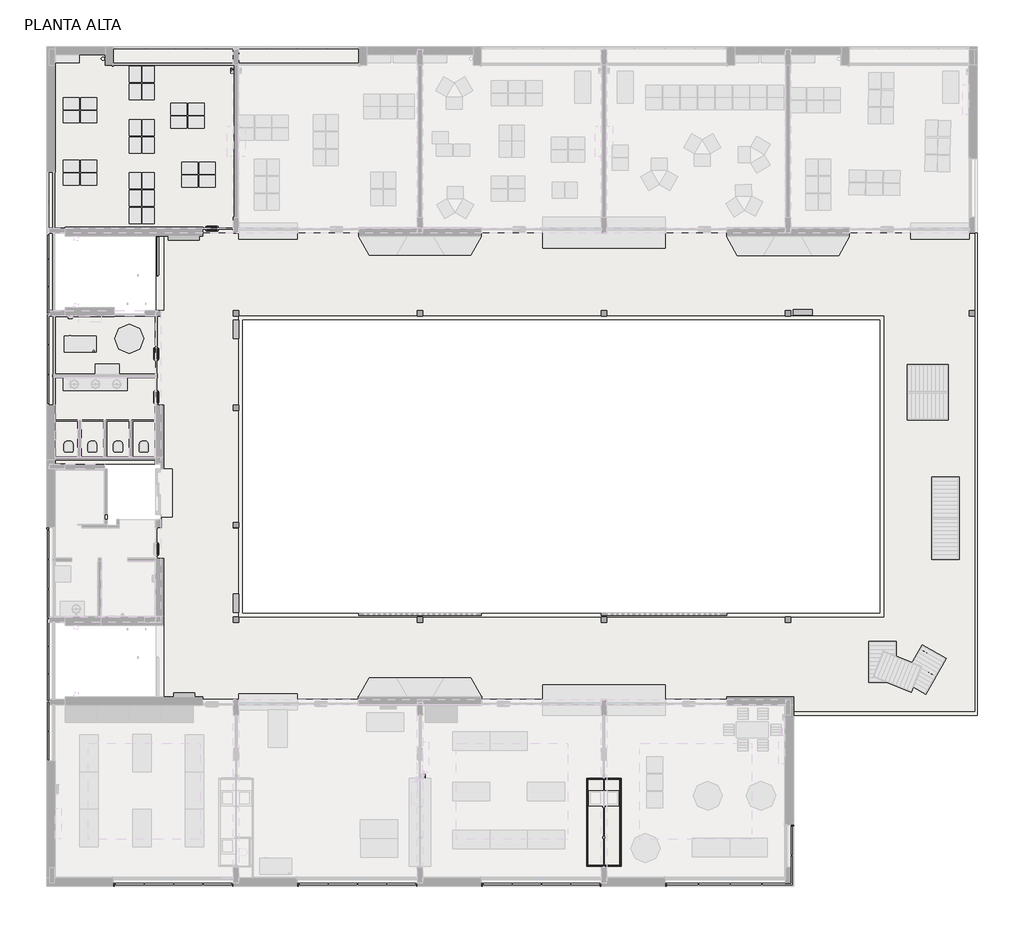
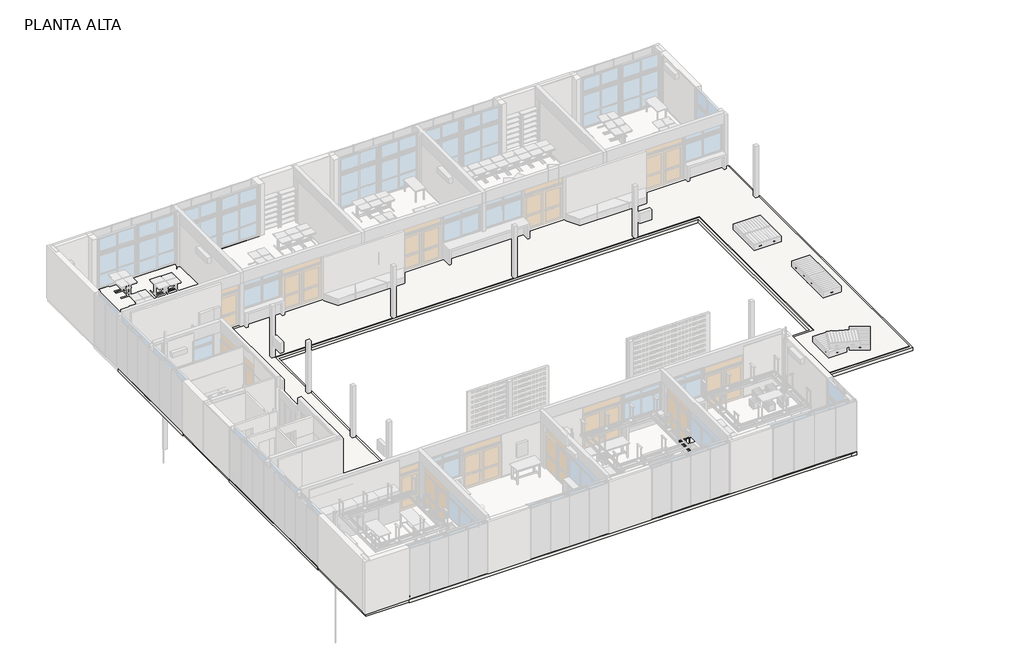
# One storey, part 7 of 14: 13 slabs, 1 proxy.
"""IFC4 building model written with IfcOpenShell, lengths in millimetres."""

from ifc_helpers import new_model, si_unit, point, frame, frame_2d, origin, place, context, project, spatial, polyline, circle_curve, ellipse_curve, trimmed, segment, composite_curve, outline, extrude, faceted_brep, element, save
from ifc_brep_helpers import plane_surface, cylinder_surface, revolved_surface, advanced_brep

model = new_model("IFC4")

# Units and contexts
model_context = context("Model", 3, world=origin())
ifc_project = project(units=[si_unit("LENGTHUNIT", "METRE", prefix="MILLI")], contexts=[model_context])

# Site, building, storey
site = spatial("IfcSite", under=ifc_project)
building = spatial("IfcBuilding", under=site)
storey = spatial("IfcBuildingStorey", under=building, Name="PLANTA ALTA", Elevation=3310.0)

# Proxy
placement = place(None, origin())
element("IfcBuildingElementProxy", 1, Name="Borde mesada", ObjectType="Borde mesada", at=placement, inside=storey, context=model_context, shape_type="AdvancedBrep", body=[
    advanced_brep(
    [(24639.1173694, 4270.2304035, 4213.0), (24639.1173694, 4270.2304035, 4128.0), (23338.3173694, 4270.2304035, 4128.0), (23338.3173694, 4270.2304035, 4213.0), (24637.1173694, 4268.2304035, 4215.0), (23340.3173694, 4268.2304035, 4215.0), (24591.1173694, 4222.2304035, 4215.0), (23386.3173694, 4222.2304035, 4215.0), (24589.1173694, 4220.2304035, 4213.0), (23388.3173694, 4220.2304035, 4213.0), (24589.1173694, 4220.2304035, 4192.0), (23388.3173694, 4220.2304035, 4192.0), (24569.1173694, 4200.2304035, 4192.0), (23408.3173694, 4200.2304035, 4192.0), (24569.1173694, 4200.2304035, 4190.0), (23408.3173694, 4200.2304035, 4190.0), (24591.1173694, 4222.2304035, 4190.0), (23386.3173694, 4222.2304035, 4190.0), (24591.1173694, 4222.2304035, 4213.0), (23386.3173694, 4222.2304035, 4213.0), (24637.1173694, 4268.2304035, 4213.0), (23340.3173694, 4268.2304035, 4213.0), (24637.1173694, 4268.2304035, 4130.0), (23340.3173694, 4268.2304035, 4130.0), (23351.6173694, 4256.9304035, 4130.0), (23388.3173694, 4220.2304035, 4130.0), (24589.1173694, 4220.2304035, 4130.0), (24625.8173694, 4256.9304035, 4130.0), (24589.1173694, 4220.2304035, 4128.0), (23388.3173694, 4220.2304035, 4128.0), (23338.3173694, 956.9304035, 4128.0), (23338.3173694, 956.9304035, 4213.0), (23340.3173694, 958.9304035, 4215.0), (23386.3173694, 1004.9304035, 4215.0), (23388.3173694, 1006.9304035, 4213.0), (23388.3173694, 1006.9304035, 4192.0), (23408.3173694, 1026.9304035, 4192.0), (23408.3173694, 1026.9304035, 4190.0), (23386.3173694, 1004.9304035, 4190.0), (23386.3173694, 1004.9304035, 4213.0), (23340.3173694, 958.9304035, 4213.0), (23340.3173694, 958.9304035, 4130.0), (23351.6173694, 970.2304035, 4130.0), (23388.3173694, 1006.9304035, 4130.0), (23388.3173694, 1006.9304035, 4128.0), (24639.1173694, 956.9304035, 4128.0), (24639.1173694, 956.9304035, 4213.0), (24637.1173694, 958.9304035, 4215.0), (24591.1173694, 1004.9304035, 4215.0), (24589.1173694, 1006.9304035, 4213.0), (24589.1173694, 1006.9304035, 4192.0), (24569.1173694, 1026.9304035, 4192.0), (24569.1173694, 1026.9304035, 4190.0), (24591.1173694, 1004.9304035, 4190.0), (24591.1173694, 1004.9304035, 4213.0), (24637.1173694, 958.9304035, 4213.0), (24637.1173694, 958.9304035, 4130.0), (24625.8173694, 970.2304035, 4130.0), (24589.1173694, 1006.9304035, 4130.0), (24589.1173694, 1006.9304035, 4128.0)],
    [
        (0, 1),
        (1, 2),
        (2, 3),
        (3, 0),
        (4, 0, ellipse_curve(frame((24637.1173694, 4268.2304035, 4213.0), z_axis=(-0.7071067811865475, 0.7071067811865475, 0.0), x_axis=(0.7071067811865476, 0.7071067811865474, 0.0)), 2.8284271, 2.0)),
        (3, 5, ellipse_curve(frame((23340.3173694, 4268.2304035, 4213.0), z_axis=(0.7071067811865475, 0.7071067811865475, 0.0), x_axis=(0.7071067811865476, -0.7071067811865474, 0.0)), 2.8284271, 2.0)),
        (5, 4),
        (6, 4),
        (5, 7),
        (7, 6),
        (8, 6, ellipse_curve(frame((24591.1173694, 4222.2304035, 4213.0), z_axis=(-0.7071067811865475, 0.7071067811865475, 0.0), x_axis=(0.7071067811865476, 0.7071067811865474, 0.0)), 2.8284271, 2.0)),
        (7, 9, ellipse_curve(frame((23386.3173694, 4222.2304035, 4213.0), z_axis=(0.7071067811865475, 0.7071067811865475, 0.0), x_axis=(0.7071067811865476, -0.7071067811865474, 0.0)), 2.8284271, 2.0)),
        (9, 8),
        (10, 8),
        (9, 11),
        (11, 10),
        (12, 10),
        (11, 13),
        (13, 12),
        (14, 12),
        (13, 15),
        (15, 14),
        (16, 14),
        (15, 17),
        (17, 16),
        (18, 16),
        (17, 19),
        (19, 18),
        (20, 18),
        (19, 21),
        (21, 20),
        (22, 20),
        (21, 23),
        (23, 22),
        (23, 24),
        (24, 25),
        (25, 26),
        (26, 27),
        (27, 22),
        (28, 26),
        (25, 29),
        (29, 28),
        (1, 28),
        (29, 2),
        (2, 30),
        (30, 31),
        (31, 3),
        (31, 32, ellipse_curve(frame((23340.3173694, 958.9304035, 4213.0), z_axis=(-0.7071067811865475, 0.7071067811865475, 0.0), x_axis=(0.7071067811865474, 0.7071067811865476, 0.0)), 2.8284271, 2.0)),
        (32, 5),
        (32, 33),
        (33, 7),
        (33, 34, ellipse_curve(frame((23386.3173694, 1004.9304035, 4213.0), z_axis=(-0.7071067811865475, 0.7071067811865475, 0.0), x_axis=(0.7071067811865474, 0.7071067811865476, 0.0)), 2.8284271, 2.0)),
        (34, 9),
        (34, 35),
        (35, 11),
        (35, 36),
        (36, 13),
        (36, 37),
        (37, 15),
        (37, 38),
        (38, 17),
        (38, 39),
        (39, 19),
        (39, 40),
        (40, 21),
        (40, 41),
        (41, 23),
        (41, 42),
        (42, 43),
        (43, 25),
        (43, 44),
        (44, 29),
        (44, 30),
        (30, 45),
        (45, 46),
        (46, 31),
        (46, 47, ellipse_curve(frame((24637.1173694, 958.9304035, 4213.0), z_axis=(-0.7071067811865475, -0.7071067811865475, 0.0), x_axis=(-0.7071067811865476, 0.7071067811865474, 0.0)), 2.8284271, 2.0)),
        (47, 32),
        (47, 48),
        (48, 33),
        (48, 49, ellipse_curve(frame((24591.1173694, 1004.9304035, 4213.0), z_axis=(-0.7071067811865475, -0.7071067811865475, 0.0), x_axis=(-0.7071067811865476, 0.7071067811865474, 0.0)), 2.8284271, 2.0)),
        (49, 34),
        (49, 50),
        (50, 35),
        (50, 51),
        (51, 36),
        (51, 52),
        (52, 37),
        (52, 53),
        (53, 38),
        (53, 54),
        (54, 39),
        (54, 55),
        (55, 40),
        (55, 56),
        (56, 41),
        (56, 57),
        (57, 58),
        (58, 43),
        (58, 59),
        (59, 44),
        (59, 45),
        (0, 46),
        (45, 1),
        (4, 47),
        (6, 48),
        (8, 49),
        (10, 50),
        (12, 51),
        (14, 52),
        (16, 53),
        (18, 54),
        (20, 55),
        (22, 56),
        (26, 58),
        (28, 59),
    ],
    [
        plane_surface(frame((24639.1173694, 4270.2304035, 4128.0), z_axis=(0.0, 1.0, 0.0), x_axis=(-1.0, 0.0, 0.0))),
        cylinder_surface(frame((24625.8173694, 4268.2304035, 4213.0), z_axis=(1.0, 0.0, 0.0), x_axis=(0.0, -1.0, 0.0)), 2.0),
        plane_surface(frame((24637.1173694, 4268.2304035, 4215.0), z_axis=(0.0, 0.0, 1.0), x_axis=(-1.0, 0.0, 0.0))),
        cylinder_surface(frame((24625.8173694, 4222.2304035, 4213.0), z_axis=(1.0, 0.0, 0.0), x_axis=(0.0, -1.0, 0.0)), 2.0),
        plane_surface(frame((24589.1173694, 4220.2304035, 4213.0), z_axis=(0.0, -1.0, 0.0), x_axis=(-1.0, 0.0, 0.0))),
        plane_surface(frame((24589.1173694, 4220.2304035, 4192.0), z_axis=(0.0, 0.0, 1.0), x_axis=(-1.0, 0.0, 0.0))),
        plane_surface(frame((24569.1173694, 4200.2304035, 4192.0), z_axis=(0.0, -1.0, 0.0), x_axis=(-1.0, 0.0, 0.0))),
        plane_surface(frame((24569.1173694, 4200.2304035, 4190.0), z_axis=(0.0, 0.0, -1.0), x_axis=(-1.0, 0.0, 0.0))),
        plane_surface(frame((24591.1173694, 4222.2304035, 4190.0), z_axis=(0.0, 1.0, 0.0), x_axis=(-1.0, 0.0, 0.0))),
        plane_surface(frame((24591.1173694, 4222.2304035, 4213.0), z_axis=(0.0, 0.0, -1.0), x_axis=(-1.0, 0.0, 0.0))),
        plane_surface(frame((24637.1173694, 4268.2304035, 4213.0), z_axis=(0.0, -1.0, 0.0), x_axis=(-1.0, 0.0, 0.0))),
        plane_surface(frame((24637.1173694, 4268.2304035, 4130.0), z_axis=(0.0, 0.0, 1.0), x_axis=(-1.0, 0.0, 0.0))),
        plane_surface(frame((24589.1173694, 4220.2304035, 4130.0), z_axis=(0.0, -1.0, 0.0), x_axis=(-1.0, 0.0, 0.0))),
        plane_surface(frame((24589.1173694, 4220.2304035, 4128.0), z_axis=(0.0, 0.0, -1.0), x_axis=(-1.0, 0.0, 0.0))),
        plane_surface(frame((23338.3173694, 4270.2304035, 4128.0), z_axis=(-1.0, 0.0, 0.0), x_axis=(0.0, -1.0, 0.0))),
        cylinder_surface(frame((23340.3173694, 4256.9304035, 4213.0), z_axis=(0.0, 1.0, 0.0), x_axis=(1.0, 0.0, 0.0)), 2.0),
        plane_surface(frame((23340.3173694, 4268.2304035, 4215.0), z_axis=(0.0, 0.0, 1.0), x_axis=(0.0, -1.0, 0.0))),
        cylinder_surface(frame((23386.3173694, 4256.9304035, 4213.0), z_axis=(0.0, 1.0, 0.0), x_axis=(1.0, 0.0, 0.0)), 2.0),
        plane_surface(frame((23388.3173694, 4220.2304035, 4213.0), z_axis=(1.0, 0.0, 0.0), x_axis=(0.0, -1.0, 0.0))),
        plane_surface(frame((23388.3173694, 4220.2304035, 4192.0), z_axis=(0.0, 0.0, 1.0), x_axis=(0.0, -1.0, 0.0))),
        plane_surface(frame((23408.3173694, 4200.2304035, 4192.0), z_axis=(1.0, 0.0, 0.0), x_axis=(0.0, -1.0, 0.0))),
        plane_surface(frame((23408.3173694, 4200.2304035, 4190.0), z_axis=(0.0, 0.0, -1.0), x_axis=(0.0, -1.0, 0.0))),
        plane_surface(frame((23386.3173694, 4222.2304035, 4190.0), z_axis=(-1.0, 0.0, 0.0), x_axis=(0.0, -1.0, 0.0))),
        plane_surface(frame((23386.3173694, 4222.2304035, 4213.0), z_axis=(0.0, 0.0, -1.0), x_axis=(0.0, -1.0, 0.0))),
        plane_surface(frame((23340.3173694, 4268.2304035, 4213.0), z_axis=(1.0, 0.0, 0.0), x_axis=(0.0, -1.0, 0.0))),
        plane_surface(frame((23340.3173694, 4268.2304035, 4130.0), z_axis=(0.0, 0.0, 1.0), x_axis=(0.0, -1.0, 0.0))),
        plane_surface(frame((23388.3173694, 4220.2304035, 4130.0), z_axis=(1.0, 0.0, 0.0), x_axis=(0.0, -1.0, 0.0))),
        plane_surface(frame((23388.3173694, 4220.2304035, 4128.0), z_axis=(0.0, 0.0, -1.0), x_axis=(0.0, -1.0, 0.0))),
        plane_surface(frame((23338.3173694, 956.9304035, 4128.0), z_axis=(0.0, -1.0, 0.0), x_axis=(1.0, 0.0, 0.0))),
        cylinder_surface(frame((23351.6173694, 958.9304035, 4213.0), z_axis=(-1.0, 0.0, 0.0), x_axis=(0.0, 1.0, 0.0)), 2.0),
        plane_surface(frame((23340.3173694, 958.9304035, 4215.0), z_axis=(0.0, 0.0, 1.0), x_axis=(1.0, 0.0, 0.0))),
        cylinder_surface(frame((23351.6173694, 1004.9304035, 4213.0), z_axis=(-1.0, 0.0, 0.0), x_axis=(0.0, 1.0, 0.0)), 2.0),
        plane_surface(frame((23388.3173694, 1006.9304035, 4213.0), z_axis=(0.0, 1.0, 0.0), x_axis=(1.0, 0.0, 0.0))),
        plane_surface(frame((23388.3173694, 1006.9304035, 4192.0), z_axis=(0.0, 0.0, 1.0), x_axis=(1.0, 0.0, 0.0))),
        plane_surface(frame((23408.3173694, 1026.9304035, 4192.0), z_axis=(0.0, 1.0, 0.0), x_axis=(1.0, 0.0, 0.0))),
        plane_surface(frame((23408.3173694, 1026.9304035, 4190.0), z_axis=(0.0, 0.0, -1.0), x_axis=(1.0, 0.0, 0.0))),
        plane_surface(frame((23386.3173694, 1004.9304035, 4190.0), z_axis=(0.0, -1.0, 0.0), x_axis=(1.0, 0.0, 0.0))),
        plane_surface(frame((23386.3173694, 1004.9304035, 4213.0), z_axis=(0.0, 0.0, -1.0), x_axis=(1.0, 0.0, 0.0))),
        plane_surface(frame((23340.3173694, 958.9304035, 4213.0), z_axis=(0.0, 1.0, 0.0), x_axis=(1.0, 0.0, 0.0))),
        plane_surface(frame((23340.3173694, 958.9304035, 4130.0), z_axis=(0.0, 0.0, 1.0), x_axis=(1.0, 0.0, 0.0))),
        plane_surface(frame((23388.3173694, 1006.9304035, 4130.0), z_axis=(0.0, 1.0, 0.0), x_axis=(1.0, 0.0, 0.0))),
        plane_surface(frame((23388.3173694, 1006.9304035, 4128.0), z_axis=(0.0, 0.0, -1.0), x_axis=(1.0, 0.0, 0.0))),
        plane_surface(frame((24639.1173694, 956.9304035, 4128.0), z_axis=(1.0, 0.0, 0.0), x_axis=(0.0, 1.0, 0.0))),
        cylinder_surface(frame((24637.1173694, 970.2304035, 4213.0), z_axis=(0.0, -1.0, 0.0), x_axis=(-1.0, 0.0, 0.0)), 2.0),
        plane_surface(frame((24637.1173694, 958.9304035, 4215.0), z_axis=(0.0, 0.0, 1.0), x_axis=(0.0, 1.0, 0.0))),
        cylinder_surface(frame((24591.1173694, 970.2304035, 4213.0), z_axis=(0.0, -1.0, 0.0), x_axis=(-1.0, 0.0, 0.0)), 2.0),
        plane_surface(frame((24589.1173694, 1006.9304035, 4213.0), z_axis=(-1.0, 0.0, 0.0), x_axis=(0.0, 1.0, 0.0))),
        plane_surface(frame((24589.1173694, 1006.9304035, 4192.0), z_axis=(0.0, 0.0, 1.0), x_axis=(0.0, 1.0, 0.0))),
        plane_surface(frame((24569.1173694, 1026.9304035, 4192.0), z_axis=(-1.0, 0.0, 0.0), x_axis=(0.0, 1.0, 0.0))),
        plane_surface(frame((24569.1173694, 1026.9304035, 4190.0), z_axis=(0.0, 0.0, -1.0), x_axis=(0.0, 1.0, 0.0))),
        plane_surface(frame((24591.1173694, 1004.9304035, 4190.0), z_axis=(1.0, 0.0, 0.0), x_axis=(0.0, 1.0, 0.0))),
        plane_surface(frame((24591.1173694, 1004.9304035, 4213.0), z_axis=(0.0, 0.0, -1.0), x_axis=(0.0, 1.0, 0.0))),
        plane_surface(frame((24637.1173694, 958.9304035, 4213.0), z_axis=(-1.0, 0.0, 0.0), x_axis=(0.0, 1.0, 0.0))),
        plane_surface(frame((24637.1173694, 958.9304035, 4130.0), z_axis=(0.0, 0.0, 1.0), x_axis=(0.0, 1.0, 0.0))),
        plane_surface(frame((24589.1173694, 1006.9304035, 4130.0), z_axis=(-1.0, 0.0, 0.0), x_axis=(0.0, 1.0, 0.0))),
        plane_surface(frame((24589.1173694, 1006.9304035, 4128.0), z_axis=(0.0, 0.0, -1.0), x_axis=(0.0, 1.0, 0.0))),
    ],
    [
        (0, [[1, 2, 3, 4]]),
        (1, [[5, -4, 6, 7]]),
        (2, [[8, -7, 9, 10]]),
        (3, [[11, -10, 12, 13]]),
        (4, [[14, -13, 15, 16]]),
        (5, [[17, -16, 18, 19]]),
        (6, [[20, -19, 21, 22]]),
        (7, [[23, -22, 24, 25]]),
        (8, [[26, -25, 27, 28]]),
        (9, [[29, -28, 30, 31]]),
        (10, [[32, -31, 33, 34]]),
        (11, [[-34, 35, 36, 37, 38, 39]]),
        (12, [[40, -37, 41, 42]]),
        (13, [[43, -42, 44, -2]]),
        (14, [[-3, 45, 46, 47]]),
        (15, [[-6, -47, 48, 49]]),
        (16, [[-9, -49, 50, 51]]),
        (17, [[-12, -51, 52, 53]]),
        (18, [[-15, -53, 54, 55]]),
        (19, [[-18, -55, 56, 57]]),
        (20, [[-21, -57, 58, 59]]),
        (21, [[-24, -59, 60, 61]]),
        (22, [[-27, -61, 62, 63]]),
        (23, [[-30, -63, 64, 65]]),
        (24, [[-33, -65, 66, 67]]),
        (25, [[-67, 68, 69, 70, -36, -35]]),
        (26, [[-41, -70, 71, 72]]),
        (27, [[-44, -72, 73, -45]]),
        (28, [[-46, 74, 75, 76]]),
        (29, [[-48, -76, 77, 78]]),
        (30, [[-50, -78, 79, 80]]),
        (31, [[-52, -80, 81, 82]]),
        (32, [[-54, -82, 83, 84]]),
        (33, [[-56, -84, 85, 86]]),
        (34, [[-58, -86, 87, 88]]),
        (35, [[-60, -88, 89, 90]]),
        (36, [[-62, -90, 91, 92]]),
        (37, [[-64, -92, 93, 94]]),
        (38, [[-66, -94, 95, 96]]),
        (39, [[-96, 97, 98, 99, -69, -68]]),
        (40, [[-71, -99, 100, 101]]),
        (41, [[-73, -101, 102, -74]]),
        (42, [[-1, 103, -75, 104]]),
        (43, [[-5, 105, -77, -103]]),
        (44, [[-8, 106, -79, -105]]),
        (45, [[-11, 107, -81, -106]]),
        (46, [[-14, 108, -83, -107]]),
        (47, [[-17, 109, -85, -108]]),
        (48, [[-20, 110, -87, -109]]),
        (49, [[-23, 111, -89, -110]]),
        (50, [[-26, 112, -91, -111]]),
        (51, [[-29, 113, -93, -112]]),
        (52, [[-32, 114, -95, -113]]),
        (53, [[-114, -39, -38, 115, -98, -97]]),
        (54, [[-40, 116, -100, -115]]),
        (55, [[-43, -104, -102, -116]]),
    ],
),
])

# Slabs
element("IfcSlab", 2, ObjectType="C23 MONOLITICA GRANITICA 30x30 5cm", at=placement, inside=storey, context=model_context, shape_type="SweptSolid", body=[
    extrude(outline(polyline([(8938.7173694, 7330.2304035), (7478.7173693, 7330.2304035), (7478.7173693, 10035.2304035), (7478.7173693, 12520.2304035), (7168.7173694, 12520.2304035), (7168.7173694, 13670.2304035), (7368.7173694, 13670.2304035), (7368.7173694, 14070.2304035), (7788.7173694, 14070.2304035), (7788.7173694, 15870.2304035), (7488.7173693, 15870.2304035), (7488.7173693, 18270.2304035), (7168.7173693, 18270.2304035), (7168.7173693, 21620.2304035), (7368.7173693, 21620.2304035), (7368.7173693, 21820.2304035), (7488.7173693, 21820.2304035), (7488.7173693, 24610.2304035), (8938.7173694, 24610.2304035), (8938.7173694, 24720.2304035), (14788.7173694, 24720.2304035), (14788.7173694, 24610.2304035), (19388.7173694, 24610.2304035), (19388.7173694, 24720.2304035), (28588.7173694, 24720.2304035), (28588.7173694, 24610.2304035), (33188.7173693, 24610.2304035), (33188.7173693, 24720.2304035), (37888.7173693, 24720.2304035), (37888.7173693, 21820.2304035), (37688.7173693, 21820.2304035), (37688.7173693, 21620.2304035), (37888.7173693, 21620.2304035), (37888.7173693, 6770.2304035), (31098.7173693, 6770.2304035), (31098.7173693, 7330.2304035), (28588.7173694, 7330.2304035), (28588.7173694, 7220.2304035), (19388.7173694, 7220.2304035), (19388.7173694, 7330.2304035), (14788.7173694, 7330.2304035), (14788.7173694, 7220.2304035), (8938.7173694, 7220.2304035), (8938.7173694, 7330.2304035)]), holes=[polyline([(10288.7173693, 18269.6020291), (10088.7173693, 18269.6020291), (10088.7173693, 18070.2304035), (10288.7173693, 18070.2304035), (10288.7173693, 13870.2304035), (10088.7173693, 13870.2304035), (10088.7173693, 13670.2304035), (10288.7173693, 13670.2304035), (10288.7173693, 10320.2304035), (16988.7173694, 10320.2304035), (16988.7173694, 10120.2304035), (17188.7173694, 10120.2304035), (17188.7173694, 10320.2304035), (23888.7173694, 10320.2304035), (23888.7173694, 10120.2304035), (24088.7173694, 10120.2304035), (24088.7173694, 10320.2304035), (30788.7173693, 10320.2304035), (30788.7173693, 10120.2304035), (30988.7173693, 10120.2304035), (30988.7173693, 10320.2304035), (34488.7173694, 10320.2304035), (34488.7173694, 21620.2304035), (30988.7173693, 21620.2304035), (30988.7173693, 21820.2304035), (30788.7173693, 21820.2304035), (30788.7173693, 21620.2304035), (24088.7173694, 21620.2304035), (24088.7173694, 21820.2304035), (23888.7173694, 21820.2304035), (23888.7173694, 21620.2304035), (17188.7173694, 21620.2304035), (17188.7173694, 21820.2304035), (16988.7173694, 21820.2304035), (16988.7173694, 21620.2304035), (10288.7173693, 21620.2304035), (10288.7173693, 18269.6020291)])]), frame((0.0, 0.0, 3260.0), z_axis=(0.0, 0.0, 1.0), x_axis=(1.0, 0.0, 0.0)), (0.0, 0.0, 1.0), 50.0),
])
element("IfcSlab", 3, ObjectType="PODOTÁCTIL 30x30 4 cm", at=placement, inside=storey, context=model_context, shape_type="SweptSolid", body=[
    extrude(outline(polyline([(7488.7173693, 24610.2304035), (7488.7173693, 21820.2304035), (7188.7173693, 21820.2304035), (7188.7173693, 24610.2304035), (7488.7173693, 24610.2304035)])), frame((0.0, 0.0, 3260.0), z_axis=(0.0, 0.0, 1.0), x_axis=(1.0, 0.0, 0.0)), (0.0, 0.0, 1.0), 50.0),
])
element("IfcSlab", 4, ObjectType="MESA-INT-Mesada de hormigón-6cm-PET", at=placement, inside=storey, context=model_context, shape_type="AdvancedBrep", body=[
    advanced_brep(
    [(6113.7173694, 19310.2304035, 4080.0), (6113.7173694, 18890.2304035, 4080.0), (6113.7173694, 18810.2304035, 4080.0), (3713.7173694, 18810.2304035, 4080.0), (3713.7173694, 19310.2304035, 4080.0), (3833.8731174, 19310.2304035, 4080.0), (5993.7173694, 19310.2304035, 4080.0), (3959.4991213, 19060.2304035, 4080.0), (4269.4991213, 19060.2304035, 4080.0), (4759.5103783, 19060.2304035, 4080.0), (5069.5103783, 19060.2304035, 4080.0), (5559.4991213, 19060.2304035, 4080.0), (5869.4991213, 19060.2304035, 4080.0), (6113.7173694, 19310.2304035, 4140.0), (3713.7173694, 19310.2304035, 4140.0), (3713.7173694, 18810.2304035, 4140.0), (6113.7173694, 18810.2304035, 4140.0), (3959.4991213, 19060.2304035, 4140.0), (4269.4991213, 19060.2304035, 4140.0), (4759.5103783, 19060.2304035, 4140.0), (5069.5103783, 19060.2304035, 4140.0), (5559.4991213, 19060.2304035, 4140.0), (5869.4991213, 19060.2304035, 4140.0)],
    [
        (0, 1),
        (1, 2),
        (2, 3),
        (3, 4),
        (4, 5),
        (5, 6),
        (6, 0),
        (7, 8, circle_curve(frame((4114.4991213, 19060.2304035, 4080.0), z_axis=(0.0, 0.0, 1.0), x_axis=(1.0, 0.0, 0.0)), 155.0)),
        (8, 7, circle_curve(frame((4114.4991213, 19060.2304035, 4080.0), z_axis=(0.0, 0.0, 1.0), x_axis=(1.0, 0.0, 0.0)), 155.0)),
        (9, 10, circle_curve(frame((4914.5103783, 19060.2304035, 4080.0), z_axis=(0.0, 0.0, 1.0), x_axis=(1.0, 0.0, 0.0)), 155.0)),
        (10, 9, circle_curve(frame((4914.5103783, 19060.2304035, 4080.0), z_axis=(0.0, 0.0, 1.0), x_axis=(1.0, 0.0, 0.0)), 155.0)),
        (11, 12, circle_curve(frame((5714.4991213, 19060.2304035, 4080.0), z_axis=(0.0, 0.0, 1.0), x_axis=(1.0, 0.0, 0.0)), 155.0)),
        (12, 11, circle_curve(frame((5714.4991213, 19060.2304035, 4080.0), z_axis=(0.0, 0.0, 1.0), x_axis=(1.0, 0.0, 0.0)), 155.0)),
        (13, 14),
        (14, 15),
        (15, 16),
        (16, 13),
        (17, 18, circle_curve(frame((4114.4991213, 19060.2304035, 4140.0), z_axis=(0.0, 0.0, -1.0), x_axis=(1.0, 0.0, 0.0)), 155.0)),
        (18, 17, circle_curve(frame((4114.4991213, 19060.2304035, 4140.0), z_axis=(0.0, 0.0, -1.0), x_axis=(1.0, 0.0, 0.0)), 155.0)),
        (19, 20, circle_curve(frame((4914.5103783, 19060.2304035, 4140.0), z_axis=(0.0, 0.0, -1.0), x_axis=(1.0, 0.0, 0.0)), 155.0)),
        (20, 19, circle_curve(frame((4914.5103783, 19060.2304035, 4140.0), z_axis=(0.0, 0.0, -1.0), x_axis=(1.0, 0.0, 0.0)), 155.0)),
        (21, 22, circle_curve(frame((5714.4991213, 19060.2304035, 4140.0), z_axis=(0.0, 0.0, -1.0), x_axis=(1.0, 0.0, 0.0)), 155.0)),
        (22, 21, circle_curve(frame((5714.4991213, 19060.2304035, 4140.0), z_axis=(0.0, 0.0, -1.0), x_axis=(1.0, 0.0, 0.0)), 155.0)),
        (0, 13),
        (16, 2),
        (15, 3),
        (14, 4),
        (7, 17),
        (18, 8),
        (9, 19),
        (20, 10),
        (11, 21),
        (22, 12),
    ],
    [
        plane_surface(frame((6113.7173694, 19310.2304035, 4080.0), z_axis=(0.0, 0.0, -1.0), x_axis=(0.0, -1.0, 0.0))),
        plane_surface(frame((6113.7173694, 19310.2304035, 4140.0), z_axis=(0.0, 0.0, 1.0), x_axis=(0.0, 1.0, 0.0))),
        plane_surface(frame((6113.7173694, 19310.2304035, 4080.0), z_axis=(1.0, 0.0, 0.0), x_axis=(0.0, 0.0, 1.0))),
        plane_surface(frame((6113.7173694, 18810.2304035, 4080.0), z_axis=(0.0, -1.0, 0.0), x_axis=(0.0, 0.0, 1.0))),
        plane_surface(frame((3713.7173694, 18810.2304035, 4080.0), z_axis=(-1.0, 0.0, 0.0), x_axis=(0.0, 0.0, 1.0))),
        plane_surface(frame((3713.7173694, 19310.2304035, 4080.0), z_axis=(0.0, 1.0, 0.0), x_axis=(0.0, 0.0, 1.0))),
        revolved_surface(polyline([(4269.4991213, 19060.2304035, 4140.0), (4269.4991213, 19060.2304035, 4080.0)]), (4114.4991213, 19060.2304035, 3310.0), (0.0, 0.0, 1.0)),
        revolved_surface(polyline([(5069.5103783, 19060.2304035, 4140.0), (5069.5103783, 19060.2304035, 4080.0)]), (4914.5103783, 19060.2304035, 3310.0), (0.0, 0.0, 1.0)),
        revolved_surface(polyline([(5869.4991213, 19060.2304035, 4140.0), (5869.4991213, 19060.2304035, 4080.0)]), (5714.4991213, 19060.2304035, 3310.0), (0.0, 0.0, 1.0)),
    ],
    [
        (0, [[1, 2, 3, 4, 5, 6, 7], [8, 9], [10, 11], [12, 13]]),
        (1, [[14, 15, 16, 17], [18, 19], [20, 21], [22, 23]]),
        (2, [[-2, -1, 24, -17, 25]]),
        (3, [[-3, -25, -16, 26]]),
        (4, [[-4, -26, -15, 27]]),
        (5, [[-7, -6, -5, -27, -14, -24]]),
        (6, [[-8, 28, -19, 29]]),
        (6, [[-9, -29, -18, -28]]),
        (7, [[-10, 30, -21, 31]]),
        (7, [[-11, -31, -20, -30]]),
        (8, [[-12, 32, -23, 33]]),
        (8, [[-13, -33, -22, -32]]),
    ],
),
])
element("IfcSlab", 5, ObjectType="C21 MONOLITICO 30x30 5cm", at=placement, inside=storey, context=model_context, shape_type="SweptSolid", body=[
    extrude(outline(polyline([(4253.7173694, 16320.2304035), (3408.7173694, 16320.2304035), (3408.7173694, 18270.2304035), (3408.7173694, 21605.2304035), (3868.7173693, 21605.2304035), (3868.7173693, 21505.2304035), (4068.7173693, 21505.2304035), (4068.7173693, 21605.2304035), (5618.7173693, 21605.2304035), (5618.7173693, 21620.2304035), (7168.7173693, 21620.2304035), (7168.7173693, 19420.2304035), (7134.7173694, 19420.2304035), (7134.7173694, 19320.2304035), (7148.7173694, 19320.2304035), (7148.7173694, 16320.2304035), (6303.7173694, 16320.2304035), (6303.7173694, 17720.2304035), (6183.7173694, 17720.2304035), (6183.7173694, 16320.2304035), (5338.7173694, 16320.2304035), (5338.7173694, 17720.2304035), (5218.7173694, 17720.2304035), (5218.7173694, 16320.2304035), (4373.7173694, 16320.2304035), (4373.7173694, 17720.2304035), (4253.7173694, 17720.2304035), (4253.7173694, 16320.2304035)]), holes=[polyline([(6113.7173694, 19310.2304035), (5993.7173694, 19310.2304035), (5993.7173694, 18890.2304035), (6113.7173694, 18890.2304035), (6113.7173694, 19310.2304035)]), polyline([(3833.8731174, 19310.2304035), (3713.8731174, 19310.2304035), (3713.8731174, 18890.2304035), (3833.8731174, 18890.2304035), (3833.8731174, 19310.2304035)])]), frame((0.0, 0.0, 3260.0), z_axis=(0.0, 0.0, 1.0), x_axis=(1.0, 0.0, 0.0)), (0.0, 0.0, 1.0), 50.0),
])
element("IfcSlab", 6, ObjectType="PORCELANATO MESADA 2cm", at=placement, inside=storey, context=model_context, shape_type="SweptSolid", body=[
    extrude(outline(polyline([(24589.1173694, 4220.2304035), (24589.1173694, 3820.2304035), (23388.3173694, 3820.2304035), (23388.3173694, 4220.2304035), (24589.1173694, 4220.2304035)])), frame((0.0, 0.0, 4190.0), z_axis=(0.0, 0.0, 1.0), x_axis=(1.0, 0.0, 0.0)), (0.0, 0.0, 1.0), 20.0),
    extrude(outline(polyline([(24026.2173694, 3220.2304035), (24589.1173694, 3220.2304035), (24589.1173694, 1006.9304035), (23388.3173694, 1006.9304035), (23388.3173694, 3220.2304035), (23951.2173694, 3220.2304035), (23951.2173694, 3170.2304035), (24026.2173694, 3170.2304035), (24026.2173694, 3220.2304035)]), holes=[polyline([(24026.2173694, 2070.2304035), (23951.2173694, 2070.2304035), (23951.2173694, 2020.2304035), (24026.2173694, 2020.2304035), (24026.2173694, 2070.2304035)])]), frame((0.0, 0.0, 4190.0), z_axis=(0.0, 0.0, 1.0), x_axis=(1.0, 0.0, 0.0)), (0.0, 0.0, 1.0), 20.0),
])
element("IfcSlab", 7, ObjectType="C14 ALISADO DE AyP 5cm", at=placement, inside=storey, context=model_context, shape_type="SweptSolid", body=[
    extrude(outline(polyline([(31620.2304035, 3260.0), (31020.2304035, 3260.0), (31020.2304035, 3310.0), (31095.2304035, 3310.0), (31620.2304035, 3280.0), (31620.2304035, 3260.0)])), frame((10288.7173693, 0.0, 0.0), z_axis=(1.0, 0.0, 0.0), x_axis=(0.0, 1.0, 0.0)), (0.0, 0.0, 1.0), 4500.0),
])
element("IfcSlab", 8, ObjectType="Alisado AyP con hidrófugo", at=placement, inside=storey, context=model_context, shape_type="SweptSolid", body=[
    extrude(outline(polyline([(3260.0, 3188.7173693), (3260.0, 3388.7173694), (3310.0, 3388.7173694), (3310.0, 3313.7173694), (3280.0, 3188.7173693), (3260.0, 3188.7173693)])), frame((0.0, 24920.2304035, 0.0), z_axis=(0.0, 1.0, 0.0), x_axis=(0.0, 0.0, 1.0)), (0.0, 0.0, 1.0), 2100.0),
])
element("IfcSlab", 9, ObjectType="Alisado AyP con hidrófugo", at=placement, inside=storey, context=model_context, shape_type="SweptSolid", body=[
    extrude(outline(polyline([(3260.0, 3188.7173693), (3260.0, 3388.7173694), (3310.0, 3388.7173694), (3310.0, 3313.7173694), (3280.0, 3188.7173693), (3260.0, 3188.7173693)])), frame((0.0, 21820.2304035, 0.0), z_axis=(0.0, 1.0, 0.0), x_axis=(0.0, 0.0, 1.0)), (0.0, 0.0, 1.0), 2900.0),
])
element("IfcSlab", 10, ObjectType="Alisado AyP con hidrófugo", at=placement, inside=storey, context=model_context, shape_type="Brep", body=[
    faceted_brep([(3408.7173694, 19320.2304035, 3260.0), (3408.7173694, 18270.2304035, 3260.0), (3188.7173693, 18270.2304035, 3260.0), (3188.7173693, 21620.2304035, 3260.0), (3408.7173694, 21620.2304035, 3260.0), (3408.7173694, 19420.2304035, 3260.0), (3308.7173694, 19420.2304035, 3260.0), (3308.7173694, 19320.2304035, 3260.0), (3408.7173694, 19320.2304035, 3310.0), (3408.7173694, 18270.2304035, 3310.0), (3333.6458005, 18270.2304035, 3310.0), (3188.7173693, 18270.2304035, 3280.0), (3188.7173693, 21620.2304035, 3280.0), (3333.6458005, 21620.2304035, 3310.0), (3408.7173694, 21620.2304035, 3310.0), (3333.6458005, 19320.2304035, 3310.0), (3308.7173694, 19320.2304035, 3304.8398466), (3308.7173694, 19420.2304035, 3304.8398466), (3333.6458005, 19420.2304035, 3310.0), (3408.7173694, 19420.2304035, 3310.0)], [[[0, 1, 2, 3, 4, 5, 6, 7]], [[1, 0, 8, 9]], [[2, 1, 9, 10, 11]], [[3, 2, 11, 12]], [[4, 3, 12, 13, 14]], [[12, 11, 10, 15, 16, 17, 18, 13]], [[5, 4, 14, 19]], [[6, 5, 19, 18, 17]], [[7, 6, 17, 16]], [[0, 7, 16, 15, 8]], [[9, 8, 15, 10]], [[19, 14, 13, 18]]]),
])
element("IfcSlab", 11, ObjectType="Alisado AyP con hidrófugo", at=placement, inside=storey, context=model_context, shape_type="SweptSolid", body=[
    extrude(outline(polyline([(3260.0, 3188.7173693), (3260.0, 3388.7173694), (3310.0, 3388.7173694), (3310.0, 3313.7173694), (3280.0, 3188.7173693), (3260.0, 3188.7173693)])), frame((0.0, 24920.2304035, 0.0), z_axis=(0.0, 1.0, 0.0), x_axis=(0.0, 0.0, 1.0)), (0.0, 0.0, 1.0), 2100.0),
])
element("IfcSlab", 12, ObjectType="C20 MONOLITICO 30x30 5cm", at=placement, inside=storey, context=model_context, shape_type="SweptSolid", body=[
    extrude(outline(polyline([(5288.7173693, 31020.2304035), (10123.7173694, 31020.2304035), (10123.7173694, 25320.2304035), (10088.7173693, 25320.2304035), (10088.7173693, 24720.2304035), (8938.7173694, 24720.2304035), (8938.7173694, 24935.2304035), (3788.7173693, 24935.2304035), (3788.7173693, 24920.2304035), (3388.7173693, 24920.2304035), (3388.7173693, 27020.2304035), (3403.7173694, 27020.2304035), (3403.7173694, 31430.2304035), (5288.7173693, 31430.2304035), (5288.7173693, 31020.2304035)]), holes=[polyline([(10088.7173693, 30920.2304035), (9988.7173694, 30920.2304035), (9988.7173694, 30720.2304035), (10088.7173693, 30720.2304035), (10088.7173693, 30920.2304035)]), composite_curve([segment(trimmed(circle_curve(frame_2d((5193.7563809, 31272.1210634)), 60.0), [point((5133.7563809, 31272.1210634))], [point((5253.7563809, 31272.1210634))], True, "CARTESIAN"), True, "CONTINUOUS"), segment(trimmed(circle_curve(frame_2d((5193.7563809, 31272.1210634)), 60.0), [point((5253.7563809, 31272.1210634))], [point((5133.7563809, 31272.1210634))], True, "CARTESIAN"), True, "CONTINUOUS")], self_intersect=False)]), frame((0.0, 0.0, 3260.0), z_axis=(0.0, 0.0, 1.0), x_axis=(1.0, 0.0, 0.0)), (0.0, 0.0, 1.0), 50.0),
])
element("IfcSlab", 13, ObjectType="C14 ALISADO DE AyP 5cm", at=placement, inside=storey, context=model_context, shape_type="SweptSolid", body=[
    extrude(outline(polyline([(31620.2304035, 3260.0), (31020.2304035, 3260.0), (31020.2304035, 3310.0), (31095.2304035, 3310.0), (31620.2304035, 3280.0), (31620.2304035, 3260.0)])), frame((5588.7173693, 0.0, 0.0), z_axis=(1.0, 0.0, 0.0), x_axis=(0.0, 1.0, 0.0)), (0.0, 0.0, 1.0), 4500.0),
])
element("IfcSlab", 14, ObjectType="LOSA-INT-HA-16cm-PET", at=placement, inside=storey, context=model_context, shape_type="Brep", body=[
    faceted_brep([(3128.7173694, 18270.2304035, 3100.0), (3078.7173694, 18270.2304035, 3100.0), (3078.7173694, 24660.2304035, 3100.0), (3388.7173694, 24660.2304035, 3100.0), (3388.7173694, 21820.2304035, 3100.0), (3188.7173693, 21820.2304035, 3100.0), (3188.7173693, 18270.2304035, 3100.0), (3188.7173693, 13670.2304035, 3100.0), (3188.7173693, 10120.2304035, 3100.0), (3388.7173693, 10120.2304035, 3100.0), (3388.7173693, 7220.2304035, 3100.0), (3188.7173693, 7220.2304035, 3100.0), (3188.7173693, 4919.6164813, 3100.0), (3188.7173693, 510.2304035, 3100.0), (3188.7173693, 320.2304035, 3100.0), (3388.7173693, 320.2304035, 3100.0), (10088.7173694, 320.2304035, 3100.0), (10288.7173694, 320.2304035, 3100.0), (16988.7173694, 320.2304035, 3100.0), (17188.7173694, 320.2304035, 3100.0), (23888.7173694, 320.2304035, 3100.0), (24088.7173694, 320.2304035, 3100.0), (30988.7173693, 320.2304035, 3100.0), (30988.7173693, 520.2304035, 3100.0), (30988.7173693, 6620.2304035, 3100.0), (30988.7173693, 7220.2304035, 3100.0), (30789.7173693, 7220.2304035, 3100.0), (30788.7173693, 7220.2304035, 3100.0), (30783.7173693, 7220.2304035, 3100.0), (7168.7173694, 7220.2304035, 3100.0), (3838.7173693, 7220.2304035, 3100.0), (3838.7173693, 7280.2304035, 3100.0), (7168.7173694, 7280.2304035, 3100.0), (7188.7173693, 7280.2304035, 3100.0), (7188.7173693, 10010.2304035, 3100.0), (7188.7173693, 10060.2304035, 3100.0), (5076.2173694, 10060.2304035, 3100.0), (3838.7173693, 10060.2304035, 3100.0), (3838.7173693, 10120.2304035, 3100.0), (5076.2173694, 10120.2304035, 3100.0), (7368.7173693, 10120.2304035, 3100.0), (7368.7173693, 10340.2304035, 3100.0), (7368.7173693, 21820.2304035, 3100.0), (7188.7173693, 21820.2304035, 3100.0), (7188.7173693, 24610.2304035, 3100.0), (7188.7173693, 24660.2304035, 3100.0), (7188.7173693, 24720.2304035, 3100.0), (8938.7173694, 24720.2304035, 3100.0), (37998.7173693, 24720.2304035, 3100.0), (37998.7173693, 6620.2304035, 3100.0), (31098.7173693, 6620.2304035, 3100.0), (31048.7173693, 6620.2304035, 3100.0), (31048.7173693, 2520.2304035, 3100.0), (31098.7173693, 2520.2304035, 3100.0), (31098.7173693, 210.2304035, 3100.0), (30788.7173693, 210.2304035, 3100.0), (5588.7173693, 210.2304035, 3100.0), (5588.7173693, 260.2304035, 3100.0), (3128.7173693, 260.2304035, 3100.0), (3128.7173693, 510.2304035, 3100.0), (3128.7173693, 4919.6164813, 3100.0), (3128.7173693, 4920.2304035, 3100.0), (3078.7173694, 4920.2304035, 3100.0), (3078.7173694, 13670.2304035, 3100.0), (3128.7173694, 13670.2304035, 3100.0), (34338.7173693, 21470.2304035, 3100.0), (10438.7173687, 21470.2304035, 3100.0), (10438.7173687, 10470.2304035, 3100.0), (34338.7173693, 10470.2304035, 3100.0), (3128.7173694, 18270.2304035, 3260.0), (3128.7173694, 13670.2304035, 3260.0), (3078.7173694, 13670.2304035, 3260.0), (3078.7173694, 4920.2304035, 3260.0), (3128.7173693, 4920.2304035, 3260.0), (3128.7173693, 4919.6164813, 3260.0), (3128.7173693, 510.2304035, 3260.0), (3128.7173693, 260.2304035, 3260.0), (5588.7173693, 260.2304035, 3260.0), (5588.7173693, 210.2304035, 3260.0), (30788.7173693, 210.2304035, 3260.0), (31098.7173693, 210.2304035, 3260.0), (31098.7173693, 2520.2304035, 3260.0), (31048.7173693, 2520.2304035, 3260.0), (31048.7173693, 6620.2304035, 3260.0), (31098.7173693, 6620.2304035, 3260.0), (37998.7173693, 6620.2304035, 3260.0), (37998.7173693, 24720.2304035, 3260.0), (37888.7173693, 24720.2304035, 3260.0), (30988.7173693, 24720.2304035, 3260.0), (24001.4173694, 24720.2304035, 3260.0), (17188.7173694, 24720.2304035, 3260.0), (10288.7173694, 24720.2304035, 3260.0), (10201.4173694, 24720.2304035, 3260.0), (7188.7173693, 24720.2304035, 3260.0), (7188.7173693, 24660.2304035, 3260.0), (7188.7173693, 24610.2304035, 3260.0), (7188.7173693, 21820.2304035, 3260.0), (7368.7173693, 21820.2304035, 3260.0), (7368.7173693, 21620.2304035, 3260.0), (7368.7173693, 21619.728492, 3260.0), (7368.7173693, 16070.2304035, 3260.0), (7368.7173693, 15869.8932813, 3260.0), (7368.7173693, 14170.2304035, 3260.0), (7368.7173693, 13970.2304035, 3260.0), (7368.7173693, 10320.2304035, 3260.0), (7368.7173693, 10120.2304035, 3260.0), (3838.7173693, 10120.2304035, 3260.0), (3838.7173693, 10060.2304035, 3260.0), (5076.2173694, 10060.2304035, 3260.0), (7188.7173693, 10060.2304035, 3260.0), (7188.7173693, 10010.2304035, 3260.0), (7188.7173693, 7280.2304035, 3260.0), (7168.7173694, 7280.2304035, 3260.0), (3838.7173693, 7280.2304035, 3260.0), (3838.7173693, 7220.2304035, 3260.0), (10288.7173694, 7220.2304035, 3260.0), (17188.7173694, 7220.2304035, 3260.0), (24088.7173694, 7220.2304035, 3260.0), (30789.7173693, 7220.2304035, 3260.0), (30988.7173693, 7220.2304035, 3260.0), (30988.7173693, 320.2304035, 3260.0), (24088.7173694, 320.2304035, 3260.0), (23888.7173694, 320.2304035, 3260.0), (17188.7173694, 320.2304035, 3260.0), (16988.7173694, 320.2304035, 3260.0), (10288.7173694, 320.2304035, 3260.0), (10088.7173694, 320.2304035, 3260.0), (3388.7173693, 320.2304035, 3260.0), (3188.7173693, 320.2304035, 3260.0), (3188.7173693, 7020.2304035, 3260.0), (3188.7173693, 7220.2304035, 3260.0), (3388.7173693, 7220.2304035, 3260.0), (3388.7173693, 10120.2304035, 3260.0), (3188.7173693, 10120.2304035, 3260.0), (3188.7173693, 16070.2304035, 3260.0), (3188.7173693, 21620.2304035, 3260.0), (3188.7173693, 21820.2304035, 3260.0), (3388.7173694, 21820.2304035, 3260.0), (3388.7173694, 24660.2304035, 3260.0), (3078.7173694, 24660.2304035, 3260.0), (3078.7173694, 18270.2304035, 3260.0), (34338.7173693, 21470.2304035, 3260.0), (34338.7173693, 10470.2304035, 3260.0), (10438.7173687, 10470.2304035, 3260.0), (10438.7173687, 21470.2304035, 3260.0)], [[[0, 1, 2, 3, 4, 5, 6, 7, 8, 9, 10, 11, 12, 13, 14, 15, 16, 17, 18, 19, 20, 21, 22, 23, 24, 25, 26, 27, 28, 29, 30, 31, 32, 33, 34, 35, 36, 37, 38, 39, 40, 41, 42, 43, 44, 45, 46, 47, 48, 49, 50, 51, 52, 53, 54, 55, 56, 57, 58, 59, 60, 61, 62, 63, 64], [65, 66, 67, 68]], [[69, 70, 71, 72, 73, 74, 75, 76, 77, 78, 79, 80, 81, 82, 83, 84, 85, 86, 87, 88, 89, 90, 91, 92, 93, 94, 95, 96, 97, 98, 99, 100, 101, 102, 103, 104, 105, 106, 107, 108, 109, 110, 111, 112, 113, 114, 115, 116, 117, 118, 119, 120, 121, 122, 123, 124, 125, 126, 127, 128, 129, 130, 131, 132, 133, 134, 135, 136, 137, 138, 139, 140], [141, 142, 143, 144]], [[0, 64, 70, 69]], [[48, 47, 46, 93, 92, 91, 90, 89, 88, 87, 86]], [[66, 65, 141, 144]], [[67, 66, 144, 143]], [[68, 67, 143, 142]], [[65, 68, 142, 141]], [[49, 48, 86, 85]], [[51, 50, 49, 85, 84, 83]], [[35, 34, 33, 111, 110, 109]], [[37, 36, 35, 109, 108, 107]], [[56, 55, 79, 78]], [[57, 56, 78, 77]], [[14, 13, 12, 11, 130, 129, 128]], [[62, 61, 73, 72]], [[33, 32, 31, 113, 112, 111]], [[63, 62, 72, 71]], [[64, 63, 71, 70]], [[1, 0, 69, 140]], [[2, 1, 140, 139]], [[55, 54, 80, 79]], [[54, 53, 81, 80]], [[52, 51, 83, 82]], [[53, 52, 82, 81]], [[3, 2, 139, 138]], [[4, 3, 138, 137]], [[46, 45, 44, 43, 96, 95, 94, 93]], [[43, 42, 97, 96]], [[8, 7, 6, 5, 136, 135, 134, 133]], [[40, 39, 38, 106, 105]], [[10, 9, 132, 131]], [[22, 21, 20, 19, 18, 17, 16, 15, 14, 128, 127, 126, 125, 124, 123, 122, 121, 120]], [[25, 24, 23, 22, 120, 119]], [[58, 57, 77, 76]], [[61, 60, 59, 58, 76, 75, 74, 73]], [[11, 10, 131, 130]], [[42, 41, 40, 105, 104, 103, 102, 101, 100, 99, 98, 97]], [[5, 4, 137, 136]], [[9, 8, 133, 132]], [[30, 29, 28, 27, 26, 25, 119, 118, 117, 116, 115, 114]], [[31, 30, 114, 113]], [[38, 37, 107, 106]]]),
    faceted_brep([(10088.7173694, 30920.2304035, 3100.0), (10088.7173694, 30720.2304035, 3100.0), (9988.7173694, 30720.2304035, 3100.0), (9988.7173694, 30920.2304035, 3100.0), (10088.7173694, 30920.2304035, 3260.0), (9988.7173694, 30920.2304035, 3260.0), (9988.7173694, 30720.2304035, 3260.0), (10088.7173694, 30720.2304035, 3260.0)], [[[0, 1, 2, 3]], [[4, 5, 6, 7]], [[1, 0, 4, 7]], [[2, 1, 7, 6]], [[3, 2, 6, 5]], [[0, 3, 5, 4]]]),
    faceted_brep([(7168.7173693, 21620.2304035, 3100.0), (7168.7173693, 16070.2304035, 3100.0), (3408.7173694, 16070.2304035, 3100.0), (3388.7173693, 16070.2304035, 3100.0), (3388.7173693, 18270.2304035, 3100.0), (3388.7173693, 21605.2304035, 3100.0), (3388.7173693, 21620.2304035, 3100.0), (3788.7173693, 21620.2304035, 3100.0), (5618.7173693, 21620.2304035, 3100.0), (4068.7173693, 21605.2304035, 3100.0), (3868.7173693, 21605.2304035, 3100.0), (3868.7173693, 21505.2304035, 3100.0), (4068.7173693, 21505.2304035, 3100.0), (7168.7173693, 21620.2304035, 3260.0), (3388.7173693, 21620.2304035, 3260.0), (3388.7173693, 16070.2304035, 3260.0), (5268.7173693, 16070.2304035, 3260.0), (7168.7173693, 16070.2304035, 3260.0), (7168.7173693, 21619.728492, 3260.0), (4068.7173693, 21605.2304035, 3260.0), (4068.7173693, 21505.2304035, 3260.0), (3868.7173693, 21505.2304035, 3260.0), (3868.7173693, 21605.2304035, 3260.0)], [[[0, 1, 2, 3, 4, 5, 6, 7, 8], [9, 10, 11, 12]], [[13, 14, 15, 16, 17, 18], [19, 20, 21, 22]], [[1, 0, 13, 18, 17]], [[3, 2, 1, 17, 16, 15]], [[6, 5, 4, 3, 15, 14]], [[0, 8, 7, 6, 14, 13]], [[10, 9, 19, 22]], [[11, 10, 22, 21]], [[12, 11, 21, 20]], [[9, 12, 20, 19]]]),
    faceted_brep([(10088.7173694, 7020.2304035, 3100.0), (10088.7173694, 520.2304035, 3100.0), (3388.7173693, 520.2304035, 3100.0), (3388.7173693, 3685.2304035, 3100.0), (3393.7173694, 3685.2304035, 3100.0), (3403.7173694, 3685.2304035, 3100.0), (3538.7173693, 3685.2304035, 3100.0), (3538.7173693, 4015.2304035, 3100.0), (3403.7173694, 4015.2304035, 3100.0), (3393.7173694, 4015.2304035, 3100.0), (3388.7173693, 4015.2304035, 3100.0), (3388.7173693, 4919.6164813, 3100.0), (3388.7173693, 7020.2304035, 3100.0), (3788.7173693, 7020.2304035, 3100.0), (7168.7173694, 7020.2304035, 3100.0), (10088.7173694, 7020.2304035, 3260.0), (3388.7173693, 7020.2304035, 3260.0), (3388.7173693, 4015.2304035, 3260.0), (3403.7173694, 4015.2304035, 3260.0), (3538.7173693, 4015.2304035, 3260.0), (3538.7173693, 3685.2304035, 3260.0), (3403.7173694, 3685.2304035, 3260.0), (3388.7173693, 3685.2304035, 3260.0), (3388.7173693, 520.2304035, 3260.0), (10088.7173694, 520.2304035, 3260.0)], [[[0, 1, 2, 3, 4, 5, 6, 7, 8, 9, 10, 11, 12, 13, 14]], [[15, 16, 17, 18, 19, 20, 21, 22, 23, 24]], [[1, 0, 15, 24]], [[2, 1, 24, 23]], [[3, 2, 23, 22]], [[0, 14, 13, 12, 16, 15]], [[6, 5, 4, 3, 22, 21, 20]], [[7, 6, 20, 19]], [[10, 9, 8, 7, 19, 18, 17]], [[12, 11, 10, 17, 16]]]),
    faceted_brep([(16988.7173694, 7020.2304035, 3100.0), (16988.7173694, 520.2304035, 3100.0), (10288.7173694, 520.2304035, 3100.0), (10288.7173694, 7020.2304035, 3100.0), (16988.7173694, 7020.2304035, 3260.0), (10288.7173694, 7020.2304035, 3260.0), (10288.7173694, 520.2304035, 3260.0), (16988.7173694, 520.2304035, 3260.0)], [[[0, 1, 2, 3]], [[4, 5, 6, 7]], [[1, 0, 4, 7]], [[2, 1, 7, 6]], [[3, 2, 6, 5]], [[0, 3, 5, 4]]]),
    faceted_brep([(23888.7173694, 7020.2304035, 3100.0), (23888.7173694, 520.2304035, 3100.0), (17188.7173694, 520.2304035, 3100.0), (17188.7173694, 4270.2304035, 3100.0), (17288.7173694, 4270.2304035, 3100.0), (17288.7173694, 4428.2304035, 3100.0), (17188.7173694, 4428.2304035, 3100.0), (17188.7173694, 7020.2304035, 3100.0), (23888.7173694, 7020.2304035, 3260.0), (17188.7173694, 7020.2304035, 3260.0), (17188.7173694, 4428.2304035, 3260.0), (17288.7173694, 4428.2304035, 3260.0), (17288.7173694, 4270.2304035, 3260.0), (17188.7173694, 4270.2304035, 3260.0), (17188.7173694, 520.2304035, 3260.0), (23888.7173694, 520.2304035, 3260.0)], [[[0, 1, 2, 3, 4, 5, 6, 7]], [[8, 9, 10, 11, 12, 13, 14, 15]], [[1, 0, 8, 15]], [[2, 1, 15, 14]], [[3, 2, 14, 13]], [[0, 7, 9, 8]], [[4, 3, 13, 12]], [[5, 4, 12, 11]], [[6, 5, 11, 10]], [[7, 6, 10, 9]]]),
    faceted_brep([(7168.7173693, 13970.2304035, 3100.0), (7168.7173693, 10340.2304035, 3100.0), (7168.7173693, 10320.2304035, 3100.0), (5076.2173694, 10320.2304035, 3100.0), (3788.7173694, 10320.2304035, 3100.0), (3388.7173693, 10320.2304035, 3100.0), (3388.7173693, 10335.2304035, 3100.0), (3388.7173693, 13670.2304035, 3100.0), (3388.7173693, 15870.2304035, 3100.0), (3408.7173694, 15870.2304035, 3100.0), (5363.7173693, 15870.2304035, 3100.0), (5363.7173693, 14170.2304035, 3100.0), (5363.7173693, 13970.2304035, 3100.0), (5363.7173693, 13755.2304035, 3100.0), (5718.7173694, 13755.2304035, 3100.0), (5718.7173694, 13970.2304035, 3100.0), (7168.7173693, 13970.2304035, 3260.0), (5718.7173694, 13970.2304035, 3260.0), (5718.7173694, 13755.2304035, 3260.0), (5363.7173693, 13755.2304035, 3260.0), (5363.7173693, 13970.2304035, 3260.0), (5363.7173693, 14170.2304035, 3260.0), (5363.7173693, 15870.2304035, 3260.0), (5268.7173693, 15870.2304035, 3260.0), (3388.7173693, 15870.2304035, 3260.0), (3388.7173693, 10320.2304035, 3260.0), (7168.7173693, 10320.2304035, 3260.0)], [[[0, 1, 2, 3, 4, 5, 6, 7, 8, 9, 10, 11, 12, 13, 14, 15]], [[16, 17, 18, 19, 20, 21, 22, 23, 24, 25, 26]], [[2, 1, 0, 16, 26]], [[5, 4, 3, 2, 26, 25]], [[8, 7, 6, 5, 25, 24]], [[10, 9, 8, 24, 23, 22]], [[13, 12, 11, 10, 22, 21, 20, 19]], [[0, 15, 17, 16]], [[14, 13, 19, 18]], [[15, 14, 18, 17]]]),
    faceted_brep([(5568.7173693, 21880.2304035, 3100.0), (5568.7173693, 21820.2304035, 3100.0), (3838.7173693, 21820.2304035, 3100.0), (3838.7173693, 21880.2304035, 3100.0), (5568.7173693, 21880.2304035, 3260.0), (3838.7173693, 21880.2304035, 3260.0), (3838.7173693, 21820.2304035, 3260.0), (5568.7173693, 21820.2304035, 3260.0)], [[[0, 1, 2, 3]], [[4, 5, 6, 7]], [[0, 3, 5, 4]], [[3, 2, 6, 5]], [[1, 0, 4, 7]], [[2, 1, 7, 6]]]),
    faceted_brep([(30788.7173693, 7020.2304035, 3100.0), (30788.7173693, 6620.2304035, 3100.0), (30788.7173693, 520.2304035, 3100.0), (24088.7173694, 520.2304035, 3100.0), (24088.7173694, 7020.2304035, 3100.0), (30783.7173693, 7020.2304035, 3100.0), (30773.7173693, 6465.2304035, 3100.0), (30773.7173693, 6665.2304035, 3100.0), (30673.7173693, 6665.2304035, 3100.0), (30673.7173693, 6465.2304035, 3100.0), (30788.7173693, 7020.2304035, 3260.0), (24088.7173694, 7020.2304035, 3260.0), (24088.7173694, 520.2304035, 3260.0), (30788.7173693, 520.2304035, 3260.0), (30773.7173693, 6465.2304035, 3260.0), (30673.7173693, 6465.2304035, 3260.0), (30673.7173693, 6665.2304035, 3260.0), (30773.7173693, 6665.2304035, 3260.0)], [[[0, 1, 2, 3, 4, 5], [6, 7, 8, 9]], [[10, 11, 12, 13], [14, 15, 16, 17]], [[2, 1, 0, 10, 13]], [[3, 2, 13, 12]], [[4, 3, 12, 11]], [[0, 5, 4, 11, 10]], [[7, 6, 14, 17]], [[8, 7, 17, 16]], [[9, 8, 16, 15]], [[6, 9, 15, 14]]]),
])

save(model, "model.ifc")
